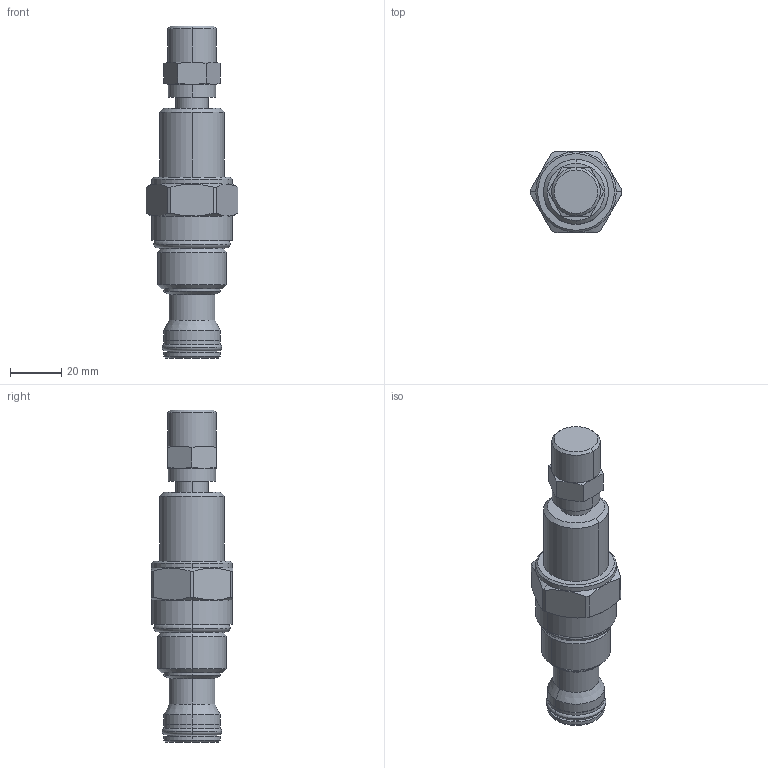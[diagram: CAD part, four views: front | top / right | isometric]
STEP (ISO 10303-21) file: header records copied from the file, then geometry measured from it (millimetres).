
FILE_DESCRIPTION((''),'2;1');
FILE_NAME('RV12-2XC','2014-04-10T',('mg1'),(''),'PRO/ENGINEER BY PARAMETRIC TECHNOLOGY CORPORATION, 2013230','PRO/ENGINEER BY PARAMETRIC TECHNOLOGY CORPORATION, 2013230','');
FILE_SCHEMA(('CONFIG_CONTROL_DESIGN'));
Length unit declared in the file: millimetre
Products named in the file (1): RV12-2XC
Bounding box: 35.81 x 31.75 x 129.91 mm (x, y, z)
Volume: 62092 mm3; surface area: 12955.2 mm2
Topology: 1 solids, 1 shells, 110 faces, 240 edges, 140 vertices
Faces by surface type: cylinder 40, cone 32, plane 22, torus 12, revolution 4
Entity records: 3218 total; most frequent: CARTESIAN_POINT 752, DIRECTION 546, ORIENTED_EDGE 480, EDGE_CURVE 240, AXIS2_PLACEMENT_3D 232, VERTEX_POINT 140, CIRCLE 126, EDGE_LOOP 118
